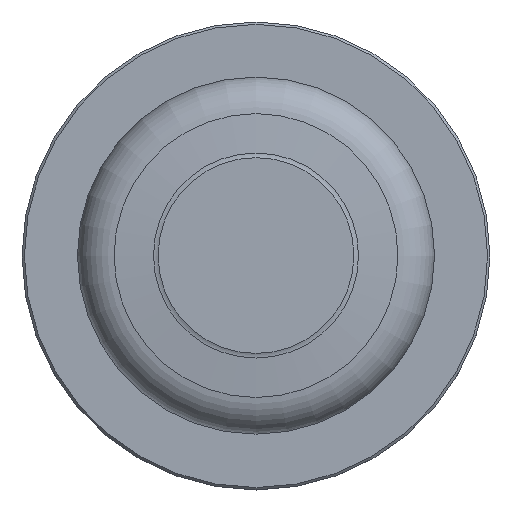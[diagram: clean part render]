
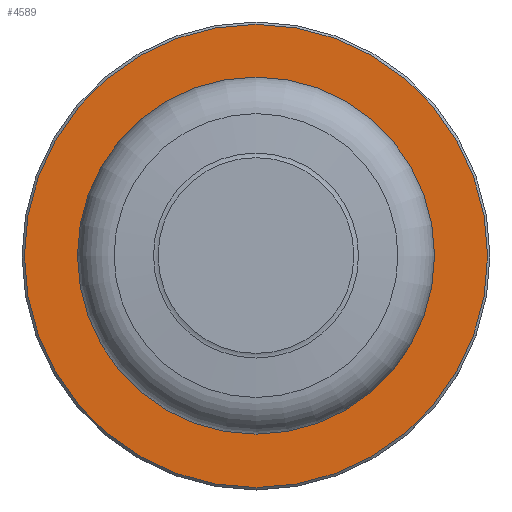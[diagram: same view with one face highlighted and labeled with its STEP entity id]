
A CAD part, top view. The second image highlights one B-rep face of the part: STEP entity #4589.
In plain terms, the highlighted planar face has unit normal (0, 0, 1) as drawn and (0, 1, 0) by its records, which use the part's own axes.
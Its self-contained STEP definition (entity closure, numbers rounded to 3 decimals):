
#4088=FACE_OUTER_BOUND('',#5484,.T.);
#4419=PLANE('',#9427);
#4589=ADVANCED_FACE('AC_MATE2',(#4088),#4419,.F.);
#5484=EDGE_LOOP('',(#6049));
#6049=ORIENTED_EDGE('',*,*,#8266,.T.);
#7689=VERTEX_POINT('',#11990);
#8266=EDGE_CURVE('',#7689,#7689,#9091,.T.);
#9091=CIRCLE('',#9426,24.25);
#9426=AXIS2_PLACEMENT_3D('',#11989,#10201,#10202);
#9427=AXIS2_PLACEMENT_3D('',#11991,#10203,#10204);
#10201=DIRECTION('',(0.,1.,0.));
#10202=DIRECTION('',(1.,0.,0.));
#10203=DIRECTION('',(0.,-1.,0.));
#10204=DIRECTION('',(1.,0.,0.));
#11989=CARTESIAN_POINT('',(0.,14.005,0.));
#11990=CARTESIAN_POINT('',(24.25,14.005,0.));
#11991=CARTESIAN_POINT('',(18.733,14.005,0.));
